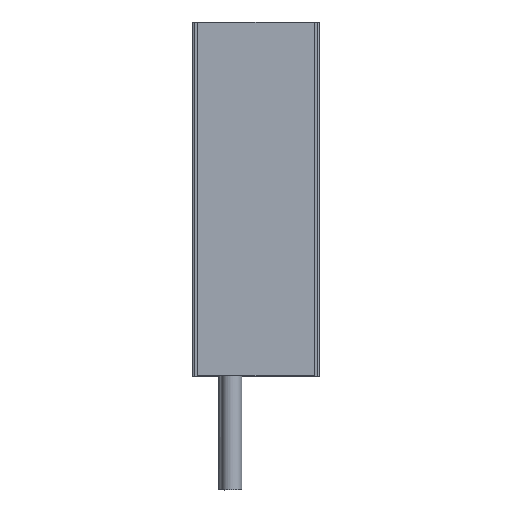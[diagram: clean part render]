
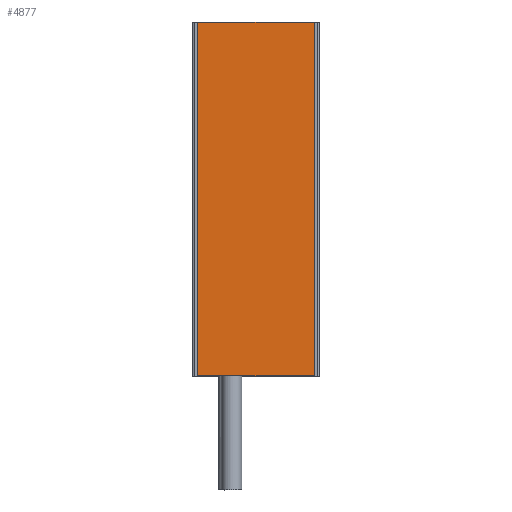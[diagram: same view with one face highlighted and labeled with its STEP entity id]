
A CAD part, top view. The second image highlights one B-rep face of the part: STEP entity #4877.
In plain terms, the highlighted planar face has unit normal (0, 0, 1).
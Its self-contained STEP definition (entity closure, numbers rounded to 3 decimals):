
#850=ORIENTED_EDGE('',*,*,#1548,.F.);
#851=ORIENTED_EDGE('',*,*,#1549,.T.);
#852=ORIENTED_EDGE('',*,*,#1550,.T.);
#853=ORIENTED_EDGE('',*,*,#1551,.F.);
#1548=EDGE_CURVE('',#1914,#1915,#2310,.T.);
#1549=EDGE_CURVE('',#1914,#1916,#2311,.T.);
#1550=EDGE_CURVE('',#1916,#1917,#2312,.T.);
#1551=EDGE_CURVE('',#1915,#1917,#2313,.T.);
#1914=VERTEX_POINT('',#6999);
#1915=VERTEX_POINT('',#7000);
#1916=VERTEX_POINT('',#7002);
#1917=VERTEX_POINT('',#7004);
#2310=LINE('',#6998,#2727);
#2311=LINE('',#7001,#2728);
#2312=LINE('',#7003,#2729);
#2313=LINE('',#7005,#2730);
#2727=VECTOR('',#5975,1000.);
#2728=VECTOR('',#5976,1000.);
#2729=VECTOR('',#5977,1000.);
#2730=VECTOR('',#5978,1000.);
#2967=EDGE_LOOP('',(#850,#851,#852,#853));
#3186=FACE_BOUND('',#2967,.T.);
#3352=PLANE('',#5146);
#4877=ADVANCED_FACE('',(#3186),#3352,.T.);
#5146=AXIS2_PLACEMENT_3D('',#6997,#5973,#5974);
#5973=DIRECTION('',(0.,0.,1.));
#5974=DIRECTION('',(1.,0.,0.));
#5975=DIRECTION('',(0.,-1.,0.));
#5976=DIRECTION('',(-1.,0.,0.));
#5977=DIRECTION('',(0.,-1.,0.));
#5978=DIRECTION('',(-1.,0.,0.));
#6997=CARTESIAN_POINT('',(27.2,142.9,0.12));
#6998=CARTESIAN_POINT('',(26.,268.1,0.12));
#6999=CARTESIAN_POINT('',(26.,142.9,0.12));
#7000=CARTESIAN_POINT('',(26.,0.1,0.12));
#7001=CARTESIAN_POINT('',(27.2,142.9,0.12));
#7002=CARTESIAN_POINT('',(-21.,142.9,0.12));
#7003=CARTESIAN_POINT('',(-21.,268.1,0.12));
#7004=CARTESIAN_POINT('',(-21.,0.1,0.12));
#7005=CARTESIAN_POINT('',(27.2,0.1,0.12));
